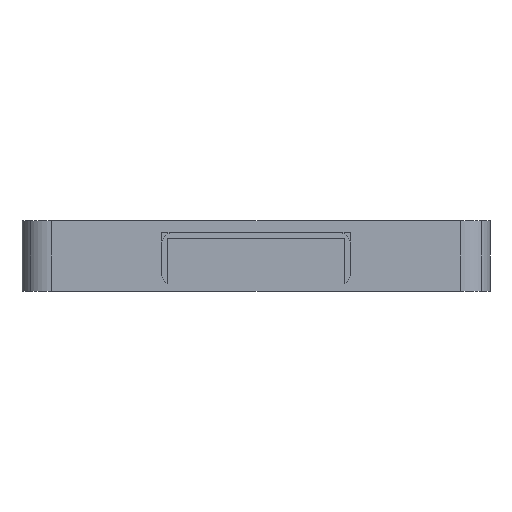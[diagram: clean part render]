
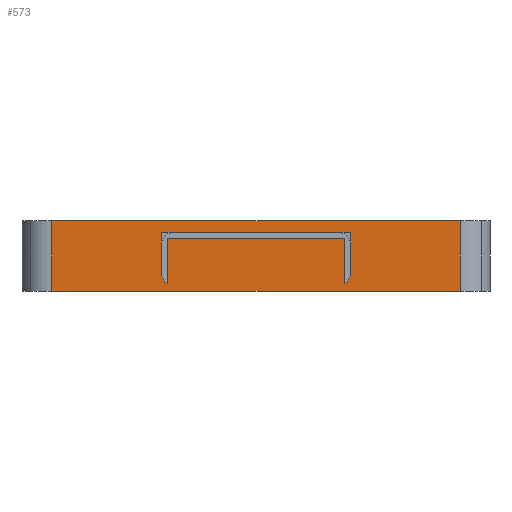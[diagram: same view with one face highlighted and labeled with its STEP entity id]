
A CAD part, front view. The second image highlights one B-rep face of the part: STEP entity #573.
In plain terms, the highlighted planar face has unit normal (0, -1, 0).
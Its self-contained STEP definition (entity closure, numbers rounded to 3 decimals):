
#9 = ORIENTED_EDGE ( 'NONE', *, *, #796, .F. ) ;
#48 = CARTESIAN_POINT ( 'NONE',  ( -421.805, -23., 24.735 ) ) ;
#55 = CARTESIAN_POINT ( 'NONE',  ( -421.555, -23., 27.86 ) ) ;
#57 = LINE ( 'NONE', #1580, #558 ) ;
#74 = VERTEX_POINT ( 'NONE', #416 ) ;
#102 = CARTESIAN_POINT ( 'NONE',  ( -421.805, -23., 24.802 ) ) ;
#117 = DIRECTION ( 'NONE',  ( 0.707, 0., -0.707 ) ) ;
#133 = LINE ( 'NONE', #1146, #1680 ) ;
#158 = EDGE_CURVE ( 'NONE', #804, #74, #1524, .T. ) ;
#159 = PLANE ( 'NONE',  #353 ) ;
#170 = EDGE_CURVE ( 'NONE', #484, #1915, #565, .T. ) ;
#186 = EDGE_CURVE ( 'NONE', #1805, #1053, #1563, .T. ) ;
#191 = VECTOR ( 'NONE', #1899, 1000. ) ;
#205 = VERTEX_POINT ( 'NONE', #690 ) ;
#215 = VECTOR ( 'NONE', #256, 1000. ) ;
#237 = CARTESIAN_POINT ( 'NONE',  ( -431.702, -23., 24.485 ) ) ;
#242 = DIRECTION ( 'NONE',  ( -0.707, 0., -0.707 ) ) ;
#256 = DIRECTION ( 'NONE',  ( 1., 0., 0. ) ) ;
#268 = LINE ( 'NONE', #590, #1310 ) ;
#276 = DIRECTION ( 'NONE',  ( -1., 0., 0. ) ) ;
#353 = AXIS2_PLACEMENT_3D ( 'NONE', #2083, #1049, #1509 ) ;
#366 = VECTOR ( 'NONE', #1878, 1000. ) ;
#395 = ORIENTED_EDGE ( 'NONE', *, *, #588, .T. ) ;
#416 = CARTESIAN_POINT ( 'NONE',  ( -421.555, -23., 25.235 ) ) ;
#431 = DIRECTION ( 'NONE',  ( 1., 0., 0. ) ) ;
#436 = EDGE_CURVE ( 'NONE', #804, #666, #710, .T. ) ;
#449 = VERTEX_POINT ( 'NONE', #1905 ) ;
#461 = EDGE_CURVE ( 'NONE', #698, #1915, #57, .T. ) ;
#484 = VERTEX_POINT ( 'NONE', #1908 ) ;
#512 = LINE ( 'NONE', #1872, #1486 ) ;
#518 = LINE ( 'NONE', #1189, #692 ) ;
#546 = LINE ( 'NONE', #2094, #1072 ) ;
#558 = VECTOR ( 'NONE', #1266, 1000. ) ;
#563 = ORIENTED_EDGE ( 'NONE', *, *, #2027, .T. ) ;
#565 = LINE ( 'NONE', #237, #571 ) ;
#571 = VECTOR ( 'NONE', #1207, 1000. ) ;
#573 = ADVANCED_FACE ( 'NONE', ( #1667, #2008 ), #159, .T. ) ;
#577 = AXIS2_PLACEMENT_3D ( 'NONE', #955, #1630, #117 ) ;
#588 = EDGE_CURVE ( 'NONE', #698, #205, #512, .T. ) ;
#590 = CARTESIAN_POINT ( 'NONE',  ( -421.805, -23., 26.985 ) ) ;
#610 = CARTESIAN_POINT ( 'NONE',  ( -421.805, -23., 26.735 ) ) ;
#643 = EDGE_LOOP ( 'NONE', ( #778, #395, #2158, #1573 ) ) ;
#666 = VERTEX_POINT ( 'NONE', #1689 ) ;
#680 = CARTESIAN_POINT ( 'NONE',  ( -422.055, -23., 26.985 ) ) ;
#690 = CARTESIAN_POINT ( 'NONE',  ( -434.209, -23., 27.485 ) ) ;
#692 = VECTOR ( 'NONE', #1026, 1000. ) ;
#698 = VERTEX_POINT ( 'NONE', #2023 ) ;
#706 = VECTOR ( 'NONE', #938, 1000. ) ;
#710 = LINE ( 'NONE', #48, #1768 ) ;
#716 = VERTEX_POINT ( 'NONE', #1557 ) ;
#743 = CARTESIAN_POINT ( 'NONE',  ( -429.055, -23., 26.985 ) ) ;
#757 = CARTESIAN_POINT ( 'NONE',  ( -421.805, -23., 26.985 ) ) ;
#768 = CARTESIAN_POINT ( 'NONE',  ( -421.555, -23., 26.985 ) ) ;
#778 = ORIENTED_EDGE ( 'NONE', *, *, #461, .F. ) ;
#791 = LINE ( 'NONE', #1968, #1093 ) ;
#796 = EDGE_CURVE ( 'NONE', #716, #449, #833, .T. ) ;
#804 = VERTEX_POINT ( 'NONE', #102 ) ;
#805 = ORIENTED_EDGE ( 'NONE', *, *, #186, .T. ) ;
#824 = VERTEX_POINT ( 'NONE', #743 ) ;
#833 = CIRCLE ( 'NONE', #1150, 0.5 ) ;
#850 = DIRECTION ( 'NONE',  ( -1., 0., 0. ) ) ;
#905 = VERTEX_POINT ( 'NONE', #1625 ) ;
#927 = ORIENTED_EDGE ( 'NONE', *, *, #2051, .T. ) ;
#938 = DIRECTION ( 'NONE',  ( 0., 0., 1. ) ) ;
#955 = CARTESIAN_POINT ( 'NONE',  ( -422.055, -23., 25.235 ) ) ;
#956 = ORIENTED_EDGE ( 'NONE', *, *, #1427, .T. ) ;
#981 = LINE ( 'NONE', #610, #1821 ) ;
#984 = ORIENTED_EDGE ( 'NONE', *, *, #158, .F. ) ;
#1002 = CARTESIAN_POINT ( 'NONE',  ( -416.9, -23., 24.485 ) ) ;
#1025 = LINE ( 'NONE', #1156, #366 ) ;
#1026 = DIRECTION ( 'NONE',  ( 0., 0., 1. ) ) ;
#1032 = ORIENTED_EDGE ( 'NONE', *, *, #436, .T. ) ;
#1049 = DIRECTION ( 'NONE',  ( 0., -1., 0. ) ) ;
#1053 = VERTEX_POINT ( 'NONE', #1373 ) ;
#1072 = VECTOR ( 'NONE', #1221, 1000. ) ;
#1077 = ORIENTED_EDGE ( 'NONE', *, *, #1250, .T. ) ;
#1093 = VECTOR ( 'NONE', #1289, 1000. ) ;
#1095 = LINE ( 'NONE', #1780, #706 ) ;
#1113 = EDGE_CURVE ( 'NONE', #484, #205, #518, .T. ) ;
#1146 = CARTESIAN_POINT ( 'NONE',  ( -421.805, -23., 26.985 ) ) ;
#1150 = AXIS2_PLACEMENT_3D ( 'NONE', #2071, #1398, #242 ) ;
#1156 = CARTESIAN_POINT ( 'NONE',  ( -429.555, -23., 26.61 ) ) ;
#1189 = CARTESIAN_POINT ( 'NONE',  ( -434.209, -23., 27.36 ) ) ;
#1207 = DIRECTION ( 'NONE',  ( 1., 0., 0. ) ) ;
#1221 = DIRECTION ( 'NONE',  ( 0., 0., -1. ) ) ;
#1242 = ORIENTED_EDGE ( 'NONE', *, *, #1687, .T. ) ;
#1250 = EDGE_CURVE ( 'NONE', #824, #1417, #133, .T. ) ;
#1266 = DIRECTION ( 'NONE',  ( 0., 0., -1. ) ) ;
#1283 = VERTEX_POINT ( 'NONE', #1829 ) ;
#1289 = DIRECTION ( 'NONE',  ( 0., 0., -1. ) ) ;
#1310 = VECTOR ( 'NONE', #431, 1000. ) ;
#1323 = ORIENTED_EDGE ( 'NONE', *, *, #2053, .T. ) ;
#1373 = CARTESIAN_POINT ( 'NONE',  ( -421.555, -23., 26.485 ) ) ;
#1376 = DIRECTION ( 'NONE',  ( 0., 0., 1. ) ) ;
#1398 = DIRECTION ( 'NONE',  ( 0., -1., 0. ) ) ;
#1415 = LINE ( 'NONE', #757, #215 ) ;
#1417 = VERTEX_POINT ( 'NONE', #680 ) ;
#1427 = EDGE_CURVE ( 'NONE', #905, #1938, #1025, .T. ) ;
#1486 = VECTOR ( 'NONE', #850, 1000. ) ;
#1509 = DIRECTION ( 'NONE',  ( 0., 0., -1. ) ) ;
#1524 = CIRCLE ( 'NONE', #577, 0.5 ) ;
#1550 = ORIENTED_EDGE ( 'NONE', *, *, #1592, .T. ) ;
#1557 = CARTESIAN_POINT ( 'NONE',  ( -429.555, -23., 25.235 ) ) ;
#1563 = LINE ( 'NONE', #55, #191 ) ;
#1573 = ORIENTED_EDGE ( 'NONE', *, *, #170, .T. ) ;
#1580 = CARTESIAN_POINT ( 'NONE',  ( -416.9, -23., 25.86 ) ) ;
#1592 = EDGE_CURVE ( 'NONE', #1053, #74, #546, .T. ) ;
#1625 = CARTESIAN_POINT ( 'NONE',  ( -429.555, -23., 26.485 ) ) ;
#1630 = DIRECTION ( 'NONE',  ( 0., -1., 0. ) ) ;
#1644 = DIRECTION ( 'NONE',  ( 1., 0., 0. ) ) ;
#1667 = FACE_BOUND ( 'NONE', #1896, .T. ) ;
#1680 = VECTOR ( 'NONE', #1644, 1000. ) ;
#1687 = EDGE_CURVE ( 'NONE', #666, #1283, #981, .T. ) ;
#1689 = CARTESIAN_POINT ( 'NONE',  ( -421.805, -23., 26.735 ) ) ;
#1768 = VECTOR ( 'NONE', #1376, 1000. ) ;
#1780 = CARTESIAN_POINT ( 'NONE',  ( -429.555, -23., 26.61 ) ) ;
#1805 = VERTEX_POINT ( 'NONE', #768 ) ;
#1821 = VECTOR ( 'NONE', #276, 1000. ) ;
#1829 = CARTESIAN_POINT ( 'NONE',  ( -429.305, -23., 26.735 ) ) ;
#1872 = CARTESIAN_POINT ( 'NONE',  ( -429.394, -23., 27.485 ) ) ;
#1878 = DIRECTION ( 'NONE',  ( 0., 0., 1. ) ) ;
#1894 = CARTESIAN_POINT ( 'NONE',  ( -429.555, -23., 26.985 ) ) ;
#1896 = EDGE_LOOP ( 'NONE', ( #9, #1323, #956, #927, #1077, #563, #805, #1550, #984, #1032, #1242, #2104 ) ) ;
#1899 = DIRECTION ( 'NONE',  ( 0., 0., -1. ) ) ;
#1905 = CARTESIAN_POINT ( 'NONE',  ( -429.305, -23., 24.802 ) ) ;
#1908 = CARTESIAN_POINT ( 'NONE',  ( -434.209, -23., 24.485 ) ) ;
#1915 = VERTEX_POINT ( 'NONE', #1002 ) ;
#1938 = VERTEX_POINT ( 'NONE', #1894 ) ;
#1968 = CARTESIAN_POINT ( 'NONE',  ( -429.305, -23., 26.735 ) ) ;
#2008 = FACE_OUTER_BOUND ( 'NONE', #643, .T. ) ;
#2023 = CARTESIAN_POINT ( 'NONE',  ( -416.9, -23., 27.485 ) ) ;
#2027 = EDGE_CURVE ( 'NONE', #1417, #1805, #1415, .T. ) ;
#2051 = EDGE_CURVE ( 'NONE', #1938, #824, #268, .T. ) ;
#2053 = EDGE_CURVE ( 'NONE', #716, #905, #1095, .T. ) ;
#2071 = CARTESIAN_POINT ( 'NONE',  ( -429.055, -23., 25.235 ) ) ;
#2078 = EDGE_CURVE ( 'NONE', #1283, #449, #791, .T. ) ;
#2083 = CARTESIAN_POINT ( 'NONE',  ( -421.805, -23., 27.235 ) ) ;
#2094 = CARTESIAN_POINT ( 'NONE',  ( -421.555, -23., 27.86 ) ) ;
#2104 = ORIENTED_EDGE ( 'NONE', *, *, #2078, .T. ) ;
#2158 = ORIENTED_EDGE ( 'NONE', *, *, #1113, .F. ) ;
